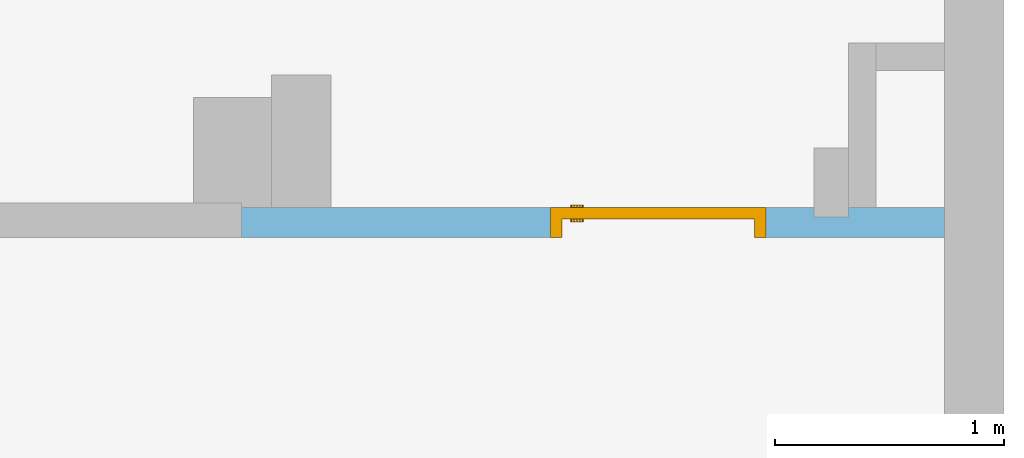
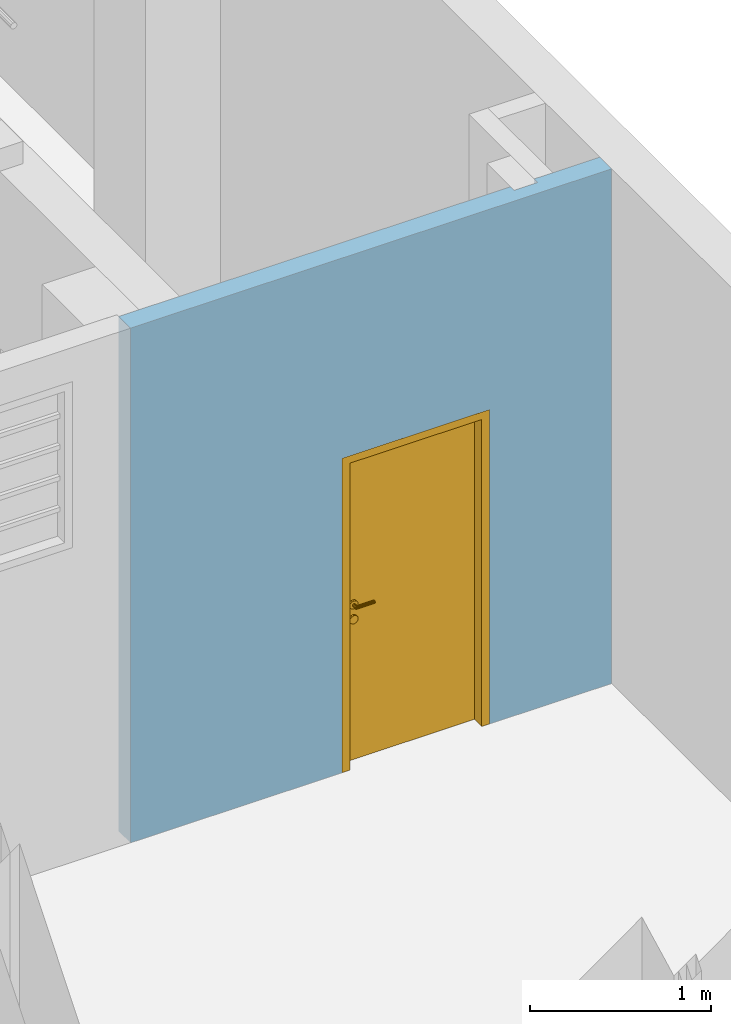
"""IFC4 building model written with IfcOpenShell, lengths in metres."""

from ifc_helpers import new_model, entity, si_unit, converted_unit, derived_unit, frame, origin, origin_with_axes, place, context, subcontext, project, spatial, polyline, outline, extrude, faceted_brep, source, transform, mapped, material, layer, layer_set, layer_usage, type_object, element, fill, save


model = new_model("IFC4")

# Units and contexts
model_context = context("Model", 3, precision=1e-05, world=origin())
body_context = subcontext(model_context, "Body", "Model", "MODEL_VIEW")
ifc_project = project(units=[si_unit("LENGTHUNIT", "METRE"), si_unit("AREAUNIT", "SQUARE_METRE"), si_unit("VOLUMEUNIT", "CUBIC_METRE"), si_unit("MASSUNIT", "GRAM", prefix="KILO"), converted_unit("PLANEANGLEUNIT", "DEGREE", entity("IfcPlaneAngleMeasure", 0.0174532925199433), si_unit("PLANEANGLEUNIT", "RADIAN"), dimensions=[0, 0, 0, 0, 0, 0, 0]), derived_unit("THERMALTRANSMITTANCEUNIT", [(si_unit("POWERUNIT", "WATT"), 1), (si_unit("THERMODYNAMICTEMPERATUREUNIT", "KELVIN"), -1), (si_unit("LENGTHUNIT", "METRE"), -2)]), derived_unit("VOLUMETRICFLOWRATEUNIT", [(si_unit("LENGTHUNIT", "METRE"), 3), (converted_unit("TIMEUNIT", "hour", entity("IfcTimeMeasure", 3600.0), si_unit("TIMEUNIT", "SECOND"), dimensions=[0, 0, 1, 0, 0, 0, 0]), -1), (si_unit("LENGTHUNIT", "METRE"), -1)])], contexts=[model_context])

# Building, storeys
building_placement = place(None, origin())
building = spatial("IfcBuilding", under=ifc_project, at=building_placement, Name="Bestandsgebäude A - Sporthalle / Wohnhaus (TB 100-499)   ANPASSEN !!!", CompositionType="ELEMENT")
storey_1_placement = place(building_placement, origin())
storey_1 = spatial("IfcBuildingStorey", under=building, at=storey_1_placement, Name="Geb. A Erdgeschoss (TB 200-249)", CompositionType="ELEMENT", Elevation=0.0)
storey_2_placement = place(storey_1_placement, origin())
storey_2 = spatial("IfcBuildingStorey", under=storey_1, at=storey_2_placement, Name="Architektur (TB 200-209)", CompositionType="PARTIAL")

# Wall, opening, door
ifc_material = material(Name="masonry")
ifc_layer = layer(ifc_material, 0.13)
ifc_layer_set = layer_set([ifc_layer])
ifc_layer_usage = layer_usage(ifc_layer_set, "AXIS2", "POSITIVE", 0.0)
wall_placement = place(storey_2_placement, frame((-3.32999999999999, 4.36, 0.0)))
wall = element("IfcWall", 1, at=wall_placement, inside=storey_2, material=ifc_layer_usage, Name="masonry load-bearing", PredefinedType="USERDEFINED", context=body_context, shape_type="SweptSolid", body=[
    extrude(outline(polyline([(0.0, 0.0), (3.06999999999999, 0.0), (3.06999999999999, 0.13), (2.64999999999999, 0.13), (2.64999999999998, 0.0900000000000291), (2.49999999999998, 0.0900000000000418), (2.49999999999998, 0.13), (0.0, 0.13), (0.0, 0.0)])), origin_with_axes(), (0.0, 0.0, 1.0), 3.47),
])
opening_placement = place(wall_placement, frame((1.35000000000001, 0.0, 0.0), z_axis=(0.0, 1.0, 0.0), x_axis=(0.0, 0.0, 1.0)))
opening = element("IfcOpeningElement", 2, at=opening_placement, cuts=wall, Name="Door opening", PredefinedType="OPENING", context=body_context, shape_type="SweptSolid", body=[
    extrude(outline(polyline([(2.12, 0.94), (2.12, 0.0), (0.0, 0.0), (0.0, 0.94), (2.12, 0.94)])), origin_with_axes(), (0.0, 0.0, 1.0), 0.13),
])
door_type = type_object("IfcDoorType", Name="door", OperationType="SINGLE_SWING_RIGHT", ParameterTakesPrecedence=False, PredefinedType="DOOR")
shared_shape = source(origin_with_axes(), body_context, "Body", "Brep", [
    faceted_brep([(0.0, 0.130000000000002, 2.12), (0.0, 0.130000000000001, 0.0), (0.05, 0.130000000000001, 0.0), (0.05, 0.130000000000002, 2.12), (0.0, 0.0, 0.0), (0.0, 0.0, 2.12), (0.05, 0.0, 2.12), (0.05, 0.0, 0.0)], [[[0, 1, 2, 3]], [[4, 5, 6, 7]], [[1, 0, 5, 4]], [[2, 1, 4, 7]], [[3, 2, 7, 6]], [[0, 3, 6, 5]]], orient=[[False], [False], [False], [False], [False], [False]]),
    faceted_brep([(0.89, 0.130000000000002, 2.12), (0.89, 0.130000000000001, 0.0), (0.94, 0.130000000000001, 0.0), (0.94, 0.130000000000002, 2.12), (0.89, 0.0, 0.0), (0.89, 0.0, 2.12), (0.94, 0.0, 2.12), (0.94, 0.0, 0.0)], [[[0, 1, 2, 3]], [[4, 5, 6, 7]], [[1, 0, 5, 4]], [[2, 1, 4, 7]], [[3, 2, 7, 6]], [[0, 3, 6, 5]]], orient=[[False], [False], [False], [False], [False], [False]]),
    faceted_brep([(0.05, 0.130000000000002, 2.12), (0.05, 0.130000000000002, 2.07), (0.89, 0.130000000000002, 2.07), (0.89, 0.130000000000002, 2.12), (0.05, 0.0, 2.07), (0.05, 0.0, 2.12), (0.89, 0.0, 2.12), (0.89, 0.0, 2.07)], [[[0, 1, 2, 3]], [[4, 5, 6, 7]], [[1, 0, 5, 4]], [[2, 1, 4, 7]], [[3, 2, 7, 6]], [[0, 3, 6, 5]]], orient=[[False], [False], [False], [False], [False], [False]]),
    faceted_brep([(0.05, 0.130000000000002, 2.07), (0.05, 0.130000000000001, 0.0), (0.89, 0.130000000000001, 0.0), (0.89, 0.130000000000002, 2.07), (0.05, 0.0800000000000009, 0.0), (0.05, 0.0800000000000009, 2.07), (0.89, 0.0800000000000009, 2.07), (0.89, 0.0800000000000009, 0.0)], [[[0, 1, 2, 3]], [[4, 5, 6, 7]], [[1, 0, 5, 4]], [[2, 1, 4, 7]], [[3, 2, 7, 6]], [[0, 3, 6, 5]]], orient=[[False], [False], [False], [False], [False], [False]]),
    faceted_brep([(0.138815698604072, 0.0800000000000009, 0.93625), (0.1425, 0.0800000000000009, 0.95), (0.138815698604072, 0.0800000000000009, 0.96375), (0.12875, 0.0800000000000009, 0.973815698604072), (0.115, 0.0800000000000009, 0.9775), (0.10125, 0.0800000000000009, 0.973815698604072), (0.0911843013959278, 0.0800000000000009, 0.96375), (0.0875, 0.0800000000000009, 0.95), (0.0911843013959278, 0.0800000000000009, 0.93625), (0.10125, 0.0800000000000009, 0.926184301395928), (0.115, 0.0800000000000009, 0.9225), (0.12875, 0.0800000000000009, 0.926184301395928), (0.1425, 0.0675000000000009, 0.95), (0.138815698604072, 0.0675000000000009, 0.93625), (0.12875, 0.0675000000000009, 0.926184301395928), (0.115, 0.0675000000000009, 0.9225), (0.10125, 0.0675000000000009, 0.926184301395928), (0.0911843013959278, 0.0675000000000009, 0.93625), (0.0875, 0.0675000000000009, 0.95), (0.0911843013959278, 0.0675000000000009, 0.96375), (0.10125, 0.0675000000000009, 0.973815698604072), (0.115, 0.0675000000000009, 0.9775), (0.12875, 0.0675000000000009, 0.973815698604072), (0.138815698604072, 0.0675000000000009, 0.96375)], [[[0, 1, 2, 3, 4, 5, 6, 7, 8, 9, 10, 11]], [[12, 13, 14, 15, 16, 17, 18, 19, 20, 21, 22, 23]], [[1, 0, 13, 12]], [[2, 1, 12, 23]], [[3, 2, 23, 22]], [[4, 3, 22, 21]], [[5, 4, 21, 20]], [[6, 5, 20, 19]], [[7, 6, 19, 18]], [[8, 7, 18, 17]], [[9, 8, 17, 16]], [[10, 9, 16, 15]], [[11, 10, 15, 14]], [[0, 11, 14, 13]]], orient=[[False], [False], [False], [False], [False], [False], [False], [False], [False], [False], [False], [False], [False], [False]]),
    faceted_brep([(0.138815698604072, 0.0800000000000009, 1.03625), (0.1425, 0.0800000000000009, 1.05), (0.138815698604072, 0.0800000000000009, 1.06375), (0.12875, 0.0800000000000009, 1.07381569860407), (0.115, 0.0800000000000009, 1.0775), (0.10125, 0.0800000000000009, 1.07381569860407), (0.0911843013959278, 0.0800000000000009, 1.06375), (0.0875, 0.0800000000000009, 1.05), (0.0911843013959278, 0.0800000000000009, 1.03625), (0.10125, 0.0800000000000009, 1.02618430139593), (0.115, 0.0800000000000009, 1.0225), (0.12875, 0.0800000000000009, 1.02618430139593), (0.1425, 0.0675000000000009, 1.05), (0.138815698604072, 0.0675000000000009, 1.03625), (0.12875, 0.0675000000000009, 1.02618430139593), (0.115, 0.0675000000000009, 1.0225), (0.10125, 0.0675000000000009, 1.02618430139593), (0.0911843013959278, 0.0675000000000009, 1.03625), (0.0875, 0.0675000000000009, 1.05), (0.0911843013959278, 0.0675000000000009, 1.06375), (0.10125, 0.0675000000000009, 1.07381569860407), (0.115, 0.0675000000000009, 1.0775), (0.12875, 0.0675000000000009, 1.07381569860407), (0.138815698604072, 0.0675000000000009, 1.06375)], [[[0, 1, 2, 3, 4, 5, 6, 7, 8, 9, 10, 11]], [[12, 13, 14, 15, 16, 17, 18, 19, 20, 21, 22, 23]], [[1, 0, 13, 12]], [[2, 1, 12, 23]], [[3, 2, 23, 22]], [[4, 3, 22, 21]], [[5, 4, 21, 20]], [[6, 5, 20, 19]], [[7, 6, 19, 18]], [[8, 7, 18, 17]], [[9, 8, 17, 16]], [[10, 9, 16, 15]], [[11, 10, 15, 14]], [[0, 11, 14, 13]]], orient=[[False], [False], [False], [False], [False], [False], [False], [False], [False], [False], [False], [False], [False], [False]]),
    faceted_brep([(0.115, 0.0800000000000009, 1.06), (0.11, 0.0800000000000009, 1.05866025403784), (0.106339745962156, 0.0800000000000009, 1.055), (0.105, 0.0800000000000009, 1.05), (0.106339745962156, 0.0800000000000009, 1.045), (0.11, 0.0800000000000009, 1.04133974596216), (0.115, 0.0800000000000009, 1.04), (0.12, 0.0800000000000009, 1.04133974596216), (0.123660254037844, 0.0800000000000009, 1.045), (0.125, 0.0800000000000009, 1.05), (0.123660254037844, 0.0800000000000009, 1.055), (0.12, 0.0800000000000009, 1.05866025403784), (0.115, 0.0400000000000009, 1.06), (0.11, 0.0350000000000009, 1.05866025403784), (0.106339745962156, 0.0313397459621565, 1.055), (0.105, 0.03, 1.05), (0.106339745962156, 0.0313397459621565, 1.045), (0.11, 0.0350000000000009, 1.04133974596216), (0.115, 0.0400000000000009, 1.04), (0.12, 0.0450000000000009, 1.04133974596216), (0.123660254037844, 0.0486602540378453, 1.045), (0.125, 0.0500000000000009, 1.05), (0.123660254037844, 0.0486602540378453, 1.055), (0.12, 0.0450000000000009, 1.05866025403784), (0.23, 0.0400000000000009, 1.06), (0.23, 0.0450000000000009, 1.05866025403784), (0.23, 0.0486602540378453, 1.055), (0.23, 0.0500000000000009, 1.05), (0.23, 0.0486602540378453, 1.045), (0.23, 0.0450000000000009, 1.04133974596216), (0.23, 0.0400000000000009, 1.04), (0.23, 0.0350000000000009, 1.04133974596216), (0.23, 0.0313397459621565, 1.045), (0.23, 0.03, 1.05), (0.23, 0.0313397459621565, 1.055), (0.23, 0.0350000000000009, 1.05866025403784)], [[[0, 1, 2, 3, 4, 5, 6, 7, 8, 9, 10, 11]], [[0, 12, 13, 1]], [[1, 13, 14, 2]], [[2, 14, 15, 3]], [[3, 15, 16, 4]], [[4, 16, 17, 5]], [[5, 17, 18, 6]], [[6, 18, 19, 7]], [[7, 19, 20, 8]], [[8, 20, 21, 9]], [[9, 21, 22, 10]], [[10, 22, 23, 11]], [[11, 23, 12, 0]], [[24, 25, 26, 27, 28, 29, 30, 31, 32, 33, 34, 35]], [[12, 24, 35, 13]], [[13, 35, 34, 14]], [[14, 34, 33, 15]], [[15, 33, 32, 16]], [[16, 32, 31, 17]], [[17, 31, 30, 18]], [[18, 30, 29, 19]], [[19, 29, 28, 20]], [[20, 28, 27, 21]], [[21, 27, 26, 22]], [[22, 26, 25, 23]], [[23, 25, 24, 12]]], orient=[[False], [False], [False], [False], [False], [False], [False], [False], [False], [False], [False], [False], [False], [False], [False], [False], [False], [False], [False], [False], [False], [False], [False], [False], [False], [False]]),
    faceted_brep([(0.138815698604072, 0.130000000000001, 0.93625), (0.12875, 0.130000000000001, 0.926184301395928), (0.115, 0.130000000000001, 0.9225), (0.10125, 0.130000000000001, 0.926184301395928), (0.0911843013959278, 0.130000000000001, 0.93625), (0.0875, 0.130000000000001, 0.95), (0.0911843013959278, 0.130000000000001, 0.96375), (0.10125, 0.130000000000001, 0.973815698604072), (0.115, 0.130000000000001, 0.9775), (0.12875, 0.130000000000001, 0.973815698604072), (0.138815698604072, 0.130000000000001, 0.96375), (0.1425, 0.130000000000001, 0.95), (0.1425, 0.142500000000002, 0.95), (0.138815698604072, 0.142500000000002, 0.96375), (0.12875, 0.142500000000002, 0.973815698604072), (0.115, 0.142500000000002, 0.9775), (0.10125, 0.142500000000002, 0.973815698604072), (0.0911843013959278, 0.142500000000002, 0.96375), (0.0875, 0.142500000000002, 0.95), (0.0911843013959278, 0.142500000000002, 0.93625), (0.10125, 0.142500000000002, 0.926184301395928), (0.115, 0.142500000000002, 0.9225), (0.12875, 0.142500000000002, 0.926184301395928), (0.138815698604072, 0.142500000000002, 0.93625)], [[[0, 1, 2, 3, 4, 5, 6, 7, 8, 9, 10, 11]], [[12, 13, 14, 15, 16, 17, 18, 19, 20, 21, 22, 23]], [[11, 12, 23, 0]], [[10, 13, 12, 11]], [[9, 14, 13, 10]], [[8, 15, 14, 9]], [[7, 16, 15, 8]], [[6, 17, 16, 7]], [[5, 18, 17, 6]], [[4, 19, 18, 5]], [[3, 20, 19, 4]], [[2, 21, 20, 3]], [[1, 22, 21, 2]], [[0, 23, 22, 1]]], orient=[[False], [False], [False], [False], [False], [False], [False], [False], [False], [False], [False], [False], [False], [False]]),
    faceted_brep([(0.138815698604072, 0.130000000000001, 1.03625), (0.12875, 0.130000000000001, 1.02618430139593), (0.115, 0.130000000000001, 1.0225), (0.10125, 0.130000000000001, 1.02618430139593), (0.0911843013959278, 0.130000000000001, 1.03625), (0.0875, 0.130000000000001, 1.05), (0.0911843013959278, 0.130000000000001, 1.06375), (0.10125, 0.130000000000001, 1.07381569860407), (0.115, 0.130000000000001, 1.0775), (0.12875, 0.130000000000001, 1.07381569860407), (0.138815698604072, 0.130000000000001, 1.06375), (0.1425, 0.130000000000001, 1.05), (0.1425, 0.142500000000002, 1.05), (0.138815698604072, 0.142500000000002, 1.06375), (0.12875, 0.142500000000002, 1.07381569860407), (0.115, 0.142500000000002, 1.0775), (0.10125, 0.142500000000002, 1.07381569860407), (0.0911843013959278, 0.142500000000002, 1.06375), (0.0875, 0.142500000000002, 1.05), (0.0911843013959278, 0.142500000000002, 1.03625), (0.10125, 0.142500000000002, 1.02618430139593), (0.115, 0.142500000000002, 1.0225), (0.12875, 0.142500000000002, 1.02618430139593), (0.138815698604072, 0.142500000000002, 1.03625)], [[[0, 1, 2, 3, 4, 5, 6, 7, 8, 9, 10, 11]], [[12, 13, 14, 15, 16, 17, 18, 19, 20, 21, 22, 23]], [[11, 12, 23, 0]], [[10, 13, 12, 11]], [[9, 14, 13, 10]], [[8, 15, 14, 9]], [[7, 16, 15, 8]], [[6, 17, 16, 7]], [[5, 18, 17, 6]], [[4, 19, 18, 5]], [[3, 20, 19, 4]], [[2, 21, 20, 3]], [[1, 22, 21, 2]], [[0, 23, 22, 1]]], orient=[[False], [False], [False], [False], [False], [False], [False], [False], [False], [False], [False], [False], [False], [False]]),
    faceted_brep([(0.115, 0.130000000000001, 1.06), (0.12, 0.130000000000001, 1.05866025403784), (0.123660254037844, 0.130000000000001, 1.055), (0.125, 0.130000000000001, 1.05), (0.123660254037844, 0.130000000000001, 1.045), (0.12, 0.130000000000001, 1.04133974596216), (0.115, 0.130000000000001, 1.04), (0.11, 0.130000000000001, 1.04133974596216), (0.106339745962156, 0.130000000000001, 1.045), (0.105, 0.130000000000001, 1.05), (0.106339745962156, 0.130000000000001, 1.055), (0.11, 0.130000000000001, 1.05866025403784), (0.11, 0.175000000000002, 1.05866025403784), (0.115, 0.170000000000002, 1.06), (0.106339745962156, 0.178660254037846, 1.055), (0.105, 0.180000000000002, 1.05), (0.106339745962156, 0.178660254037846, 1.045), (0.11, 0.175000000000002, 1.04133974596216), (0.115, 0.170000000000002, 1.04), (0.12, 0.165000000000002, 1.04133974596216), (0.123660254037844, 0.161339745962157, 1.045), (0.125, 0.160000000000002, 1.05), (0.123660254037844, 0.161339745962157, 1.055), (0.12, 0.165000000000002, 1.05866025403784), (0.23, 0.170000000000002, 1.06), (0.23, 0.175000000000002, 1.05866025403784), (0.23, 0.178660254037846, 1.055), (0.23, 0.180000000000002, 1.05), (0.23, 0.178660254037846, 1.045), (0.23, 0.175000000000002, 1.04133974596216), (0.23, 0.170000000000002, 1.04), (0.23, 0.165000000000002, 1.04133974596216), (0.23, 0.161339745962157, 1.045), (0.23, 0.160000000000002, 1.05), (0.23, 0.161339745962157, 1.055), (0.23, 0.165000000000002, 1.05866025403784)], [[[0, 1, 2, 3, 4, 5, 6, 7, 8, 9, 10, 11]], [[0, 11, 12, 13]], [[11, 10, 14, 12]], [[10, 9, 15, 14]], [[9, 8, 16, 15]], [[8, 7, 17, 16]], [[7, 6, 18, 17]], [[6, 5, 19, 18]], [[5, 4, 20, 19]], [[4, 3, 21, 20]], [[3, 2, 22, 21]], [[2, 1, 23, 22]], [[1, 0, 13, 23]], [[24, 25, 26, 27, 28, 29, 30, 31, 32, 33, 34, 35]], [[13, 12, 25, 24]], [[12, 14, 26, 25]], [[14, 15, 27, 26]], [[15, 16, 28, 27]], [[16, 17, 29, 28]], [[17, 18, 30, 29]], [[18, 19, 31, 30]], [[19, 20, 32, 31]], [[20, 21, 33, 32]], [[21, 22, 34, 33]], [[22, 23, 35, 34]], [[23, 13, 24, 35]]], orient=[[False], [False], [False], [False], [False], [False], [False], [False], [False], [False], [False], [False], [False], [False], [False], [False], [False], [False], [False], [False], [False], [False], [False], [False], [False], [False]]),
])
door_placement = place(opening_placement, frame((0.0, 0.0, 0.0), z_axis=(1.0, 0.0, 0.0), x_axis=(0.0, 1.0, 0.0)))
door = element("IfcDoor", 3, at=door_placement, inside=storey_2, type_object=door_type, Name="door", OverallHeight=2.12, OverallWidth=0.94, PredefinedType="DOOR", context=body_context, shape_type="MappedRepresentation", body=[
    mapped(shared_shape, transform((0.0, 0.0, 0.0), x_axis=(1.0, 0.0, 0.0), y_axis=(0.0, 1.0, 0.0), z_axis=(0.0, 0.0, 1.0), scale=1.0)),
])
fill(opening, door)

save(model, "model.ifc")
